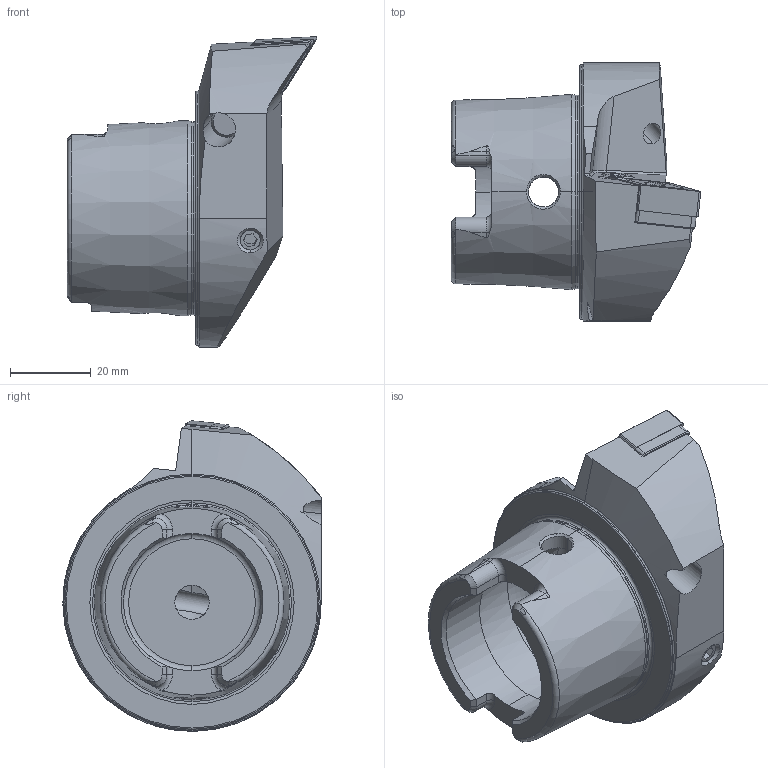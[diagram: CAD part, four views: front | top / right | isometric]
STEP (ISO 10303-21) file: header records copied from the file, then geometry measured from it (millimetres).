
FILE_DESCRIPTION (( 'STEP AP214' ), '1' );
FILE_NAME ('HA6.PDF.LJA.030.STEP', '2022-03-28T13:08:23', ( '' ), ( '' ), 'SwSTEP 2.0', 'SolidWorks 2017', '' );
FILE_SCHEMA (( 'AUTOMOTIVE_DESIGN' ));
Length unit declared in the file: millimetre
Products named in the file (8): WDF-ER2.101.003_A; HA6-PDF.LJA.030_A; DNMG150604; HA6.PDF.LJA.030; WDF-ER3.101.000_A; WCD-ER4.101.017_A; WCD-ER1.101.000; ISO 4026 - M6 x 6
Assembly tree (7 placements, depth 2):
  HA6.PDF.LJA.030
    HA6-PDF.LJA.030_A
    WDF-ER2.101.003_A
    WCD-ER4.101.017_A
    WCD-ER1.101.000
    WDF-ER3.101.000_A
    ISO 4026 - M6 x 6
    DNMG150604
Bounding box: 61.9 x 64 x 77 mm (x, y, z)
Volume: 69512.2 mm3; surface area: 25271.8 mm2
Topology: 7 solids, 7 shells, 303 faces, 768 edges, 469 vertices
Faces by surface type: plane 105, cylinder 82, cone 68, torus 32, bspline 16
Entity records: 10793 total; most frequent: CARTESIAN_POINT 3397, ORIENTED_EDGE 1520, DIRECTION 1408, EDGE_CURVE 760, AXIS2_PLACEMENT_3D 538, VERTEX_POINT 469, VECTOR 332, LINE 332
